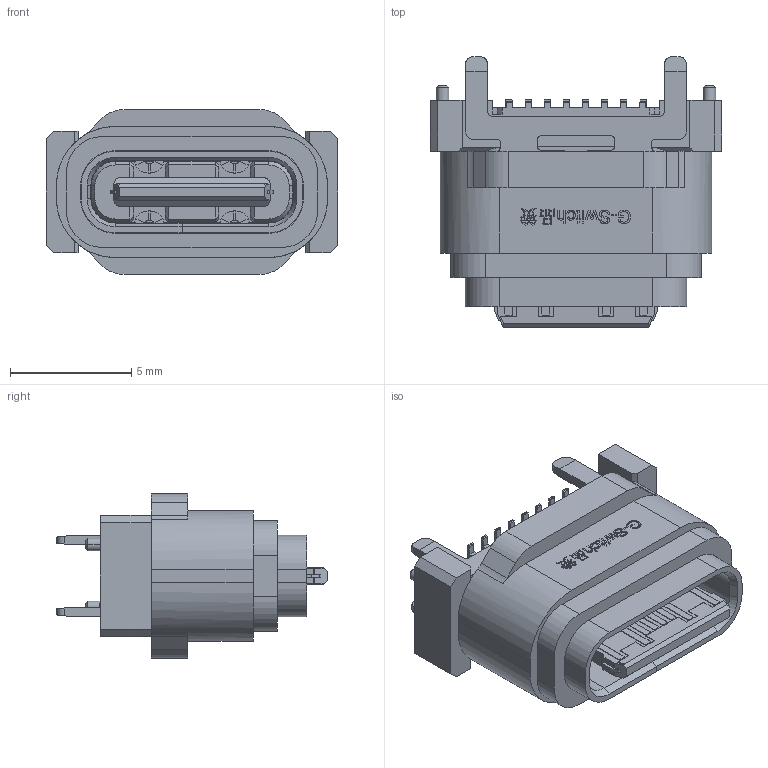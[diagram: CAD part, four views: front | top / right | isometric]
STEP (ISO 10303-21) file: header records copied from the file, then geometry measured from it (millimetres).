
FILE_DESCRIPTION (( 'STEP AP203' ), '1' );
FILE_NAME ('GT-USB-7096C.STEP', '2023-04-08T02:30:35', ( '' ), ( '' ), 'SwSTEP 2.0', 'SolidWorks 2023', '' );
FILE_SCHEMA (( 'CONFIG_CONTROL_DESIGN' ));
Length unit declared in the file: millimetre
Products named in the file (1): GT-USB-7096C
Bounding box: 12 x 11.15 x 6.8 mm (x, y, z)
Volume: 347.9 mm3; surface area: 1000.1 mm2
Topology: 1 solids, 65 shells, 2055 faces, 5539 edges, 3613 vertices
Faces by surface type: plane 1607, cylinder 344, bspline 74, cone 30
Entity records: 67562 total; most frequent: CARTESIAN_POINT 16441, ORIENTED_EDGE 11072, DIRECTION 9741, EDGE_CURVE 5536, VECTOR 4487, LINE 4487, VERTEX_POINT 3613, AXIS2_PLACEMENT_3D 2627
